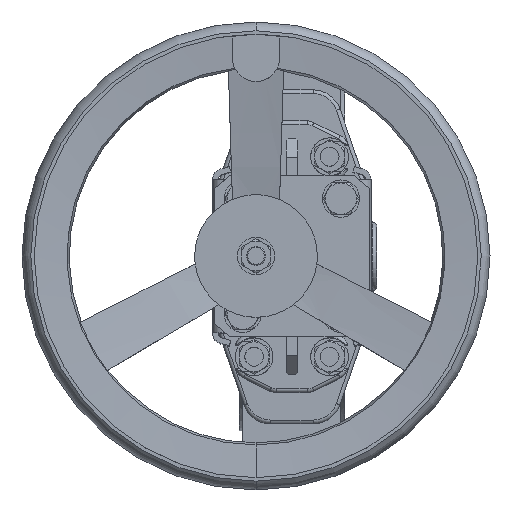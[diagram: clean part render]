
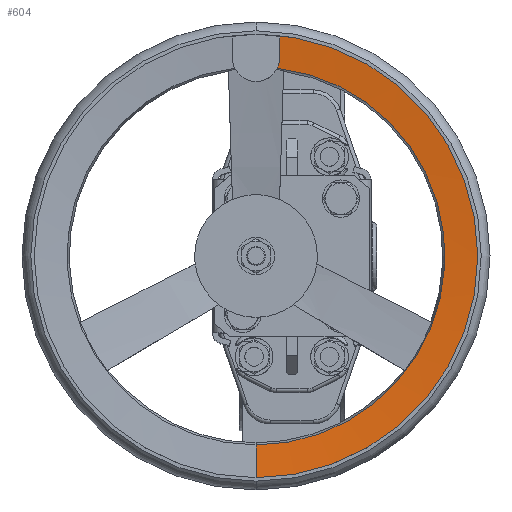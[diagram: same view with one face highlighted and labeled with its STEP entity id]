
A CAD part, top view. The second image highlights one B-rep face of the part: STEP entity #604.
In plain terms, the highlighted conical face has half-angle 85 degrees and reference radius 117.5 mm.
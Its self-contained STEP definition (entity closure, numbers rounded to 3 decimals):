
#604=ADVANCED_FACE('',(#2014),#2015,.F.);
#2014=FACE_OUTER_BOUND('',#4499,.T.);
#2015=CONICAL_SURFACE('',#4500,117.5,1.484);
#4499=EDGE_LOOP('',(#10104,#10105,#10106,#10107,#10108,#10109,#10110));
#4500=AXIS2_PLACEMENT_3D('',#10111,#10112,#10113);
#10104=ORIENTED_EDGE('',*,*,#18289,.F.);
#10105=ORIENTED_EDGE('',*,*,#18151,.F.);
#10106=ORIENTED_EDGE('',*,*,#18290,.F.);
#10107=ORIENTED_EDGE('',*,*,#18291,.F.);
#10108=ORIENTED_EDGE('',*,*,#18292,.T.);
#10109=ORIENTED_EDGE('',*,*,#18293,.T.);
#10110=ORIENTED_EDGE('',*,*,#17710,.T.);
#10111=CARTESIAN_POINT('',(-19.,0.,419.519));
#10112=DIRECTION('',(0.,0.,1.));
#10113=DIRECTION('',(0.,-1.,0.));
#17710=EDGE_CURVE('',#21024,#21011,#21025,.T.);
#18151=EDGE_CURVE('',#21889,#21892,#21893,.T.);
#18289=EDGE_CURVE('',#21892,#21011,#22157,.T.);
#18290=EDGE_CURVE('',#22158,#21889,#22159,.T.);
#18291=EDGE_CURVE('',#22160,#22158,#22161,.T.);
#18292=EDGE_CURVE('',#22160,#22162,#22163,.T.);
#18293=EDGE_CURVE('',#22162,#21024,#22164,.T.);
#21011=VERTEX_POINT('',#25916);
#21024=VERTEX_POINT('',#25953);
#21025=CIRCLE('',#25954,100.133);
#21889=VERTEX_POINT('',#27313);
#21892=VERTEX_POINT('',#27317);
#21893=CIRCLE('',#27318,117.5);
#22157=LINE('',#27836,#27837);
#22158=VERTEX_POINT('',#27838);
#22159=LINE('',#27839,#27840);
#22160=VERTEX_POINT('',#27841);
#22161=CIRCLE('',#27842,117.278);
#22162=VERTEX_POINT('',#27843);
#22163=B_SPLINE_CURVE_WITH_KNOTS('',3,(#27844,#27845,#27846,#27847,#27848,#27849,#27850),.UNSPECIFIED.,.F.,.F.,(4,3,4),(0.013,0.023,0.025),.UNSPECIFIED.);
#22164=B_SPLINE_CURVE_WITH_KNOTS('',3,(#27851,#27852,#27853,#27854,#27855,#27856,#27857,#27858),.UNSPECIFIED.,.F.,.F.,(4,2,2,4),(0.003,0.004,0.006,0.008),.UNSPECIFIED.);
#25916=CARTESIAN_POINT('',(-19.,-100.133,418.));
#25953=CARTESIAN_POINT('',(-7.774,99.502,418.));
#25954=AXIS2_PLACEMENT_3D('',#35105,#35106,#35107);
#27313=CARTESIAN_POINT('',(-19.,117.5,419.519));
#27317=CARTESIAN_POINT('',(-19.,-117.5,419.519));
#27318=AXIS2_PLACEMENT_3D('',#35946,#35947,#35948);
#27836=CARTESIAN_POINT('',(-19.,-117.5,419.519));
#27837=VECTOR('',#36174,1.);
#27838=CARTESIAN_POINT('',(-19.,117.278,419.5));
#27839=CARTESIAN_POINT('',(-19.,117.5,419.519));
#27840=VECTOR('',#36175,1.);
#27841=CARTESIAN_POINT('',(-6.5,116.61,419.5));
#27842=AXIS2_PLACEMENT_3D('',#36176,#36177,#36178);
#27843=CARTESIAN_POINT('',(-6.5,105.,418.491));
#27844=CARTESIAN_POINT('',(-6.5,116.61,419.5));
#27845=CARTESIAN_POINT('',(-6.5,113.264,419.209));
#27846=CARTESIAN_POINT('',(-6.5,109.919,418.918));
#27847=CARTESIAN_POINT('',(-6.5,106.573,418.627));
#27848=CARTESIAN_POINT('',(-6.5,106.049,418.582));
#27849=CARTESIAN_POINT('',(-6.5,105.524,418.536));
#27850=CARTESIAN_POINT('',(-6.5,105.,418.491));
#27851=CARTESIAN_POINT('',(-6.5,105.,418.491));
#27852=CARTESIAN_POINT('',(-6.5,104.527,418.45));
#27853=CARTESIAN_POINT('',(-6.527,104.054,418.408));
#27854=CARTESIAN_POINT('',(-6.636,103.103,418.324));
#27855=CARTESIAN_POINT('',(-6.717,102.634,418.283));
#27856=CARTESIAN_POINT('',(-7.037,101.253,418.16));
#27857=CARTESIAN_POINT('',(-7.353,100.362,418.079));
#27858=CARTESIAN_POINT('',(-7.774,99.502,418.));
#35105=CARTESIAN_POINT('',(-19.,0.,418.));
#35106=DIRECTION('',(0.,0.,-1.));
#35107=DIRECTION('',(0.,1.,0.));
#35946=CARTESIAN_POINT('',(-19.,0.,419.519));
#35947=DIRECTION('',(0.,0.,-1.));
#35948=DIRECTION('',(0.,1.,0.));
#36174=DIRECTION('',(0.,0.996,-0.087));
#36175=DIRECTION('',(0.,0.996,0.087));
#36176=CARTESIAN_POINT('',(-19.,0.,419.5));
#36177=DIRECTION('',(0.,0.,1.));
#36178=DIRECTION('',(1.,0.,0.));
